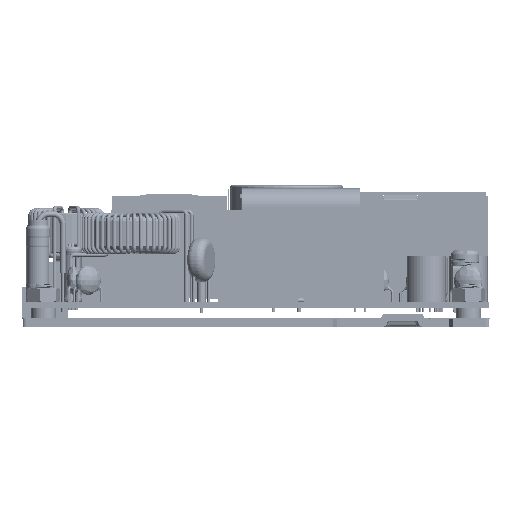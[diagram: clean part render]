
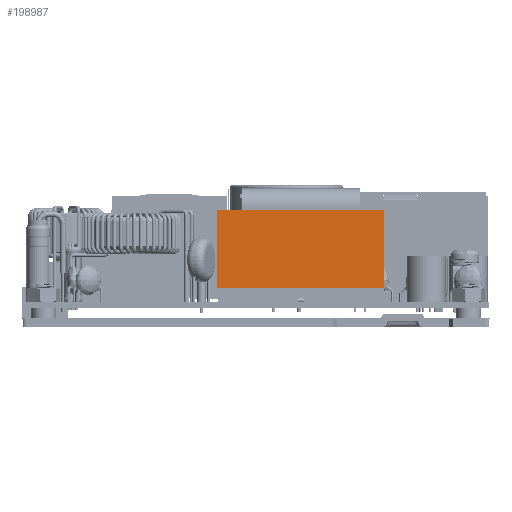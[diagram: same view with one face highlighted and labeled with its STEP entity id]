
A CAD part, front view. The second image highlights one B-rep face of the part: STEP entity #198987.
In plain terms, the highlighted planar face has unit normal (0, -1, 0).
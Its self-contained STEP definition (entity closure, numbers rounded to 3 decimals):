
#2244 = DIRECTION ( 'NONE',  ( 0., 0., -1. ) ) ;
#29679 = VERTEX_POINT ( 'NONE', #186354 ) ;
#32118 = DIRECTION ( 'NONE',  ( 0., 1., 0. ) ) ;
#34984 = VERTEX_POINT ( 'NONE', #193042 ) ;
#39217 = CARTESIAN_POINT ( 'NONE',  ( -8.163, -46.098, 25. ) ) ;
#39652 = LINE ( 'NONE', #103014, #105609 ) ;
#41240 = DIRECTION ( 'NONE',  ( 1., 0., 0. ) ) ;
#45779 = CARTESIAN_POINT ( 'NONE',  ( 37.237, -46.098, 25. ) ) ;
#47669 = FACE_OUTER_BOUND ( 'NONE', #135197, .T. ) ;
#50768 = AXIS2_PLACEMENT_3D ( 'NONE', #174500, #32118, #95466 ) ;
#53602 = VECTOR ( 'NONE', #41240, 1000. ) ;
#61400 = ORIENTED_EDGE ( 'NONE', *, *, #62887, .F. ) ;
#62887 = EDGE_CURVE ( 'NONE', #98237, #29679, #188172, .T. ) ;
#65257 = CARTESIAN_POINT ( 'NONE',  ( 37.237, -46.098, 25. ) ) ;
#81192 = LINE ( 'NONE', #144598, #88470 ) ;
#88470 = VECTOR ( 'NONE', #2244, 1000. ) ;
#95466 = DIRECTION ( 'NONE',  ( -1., 0., 0. ) ) ;
#95640 = EDGE_CURVE ( 'NONE', #202723, #98237, #120168, .T. ) ;
#98237 = VERTEX_POINT ( 'NONE', #65257 ) ;
#103014 = CARTESIAN_POINT ( 'NONE',  ( 37.237, -46.098, 4. ) ) ;
#105609 = VECTOR ( 'NONE', #166441, 1000. ) ;
#109165 = DIRECTION ( 'NONE',  ( 0., 0., -1. ) ) ;
#111077 = PLANE ( 'NONE',  #50768 ) ;
#119127 = EDGE_CURVE ( 'NONE', #202723, #34984, #81192, .T. ) ;
#120168 = LINE ( 'NONE', #183605, #53602 ) ;
#135197 = EDGE_LOOP ( 'NONE', ( #182055, #175112, #61400, #135422 ) ) ;
#135422 = ORIENTED_EDGE ( 'NONE', *, *, #95640, .F. ) ;
#144598 = CARTESIAN_POINT ( 'NONE',  ( -8.163, -46.098, 25. ) ) ;
#154390 = VECTOR ( 'NONE', #109165, 1000. ) ;
#166441 = DIRECTION ( 'NONE',  ( 1., 0., 0. ) ) ;
#174500 = CARTESIAN_POINT ( 'NONE',  ( 37.237, -46.098, 25. ) ) ;
#175112 = ORIENTED_EDGE ( 'NONE', *, *, #191098, .T. ) ;
#182055 = ORIENTED_EDGE ( 'NONE', *, *, #119127, .T. ) ;
#183605 = CARTESIAN_POINT ( 'NONE',  ( 37.237, -46.098, 25. ) ) ;
#186354 = CARTESIAN_POINT ( 'NONE',  ( 37.237, -46.098, 4. ) ) ;
#188172 = LINE ( 'NONE', #45779, #154390 ) ;
#191098 = EDGE_CURVE ( 'NONE', #34984, #29679, #39652, .T. ) ;
#193042 = CARTESIAN_POINT ( 'NONE',  ( -8.163, -46.098, 4. ) ) ;
#198987 = ADVANCED_FACE ( 'NONE', ( #47669 ), #111077, .F. ) ;
#202723 = VERTEX_POINT ( 'NONE', #39217 ) ;
